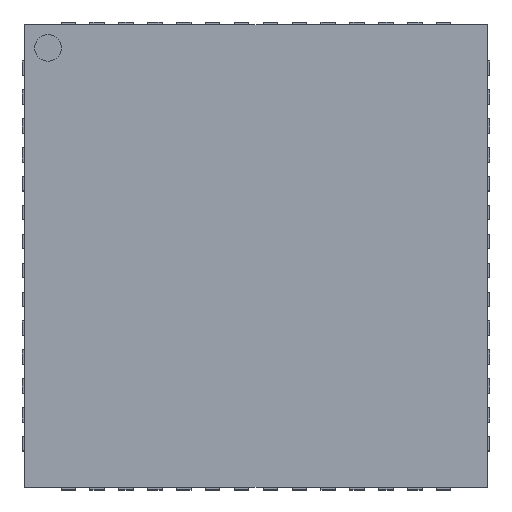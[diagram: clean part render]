
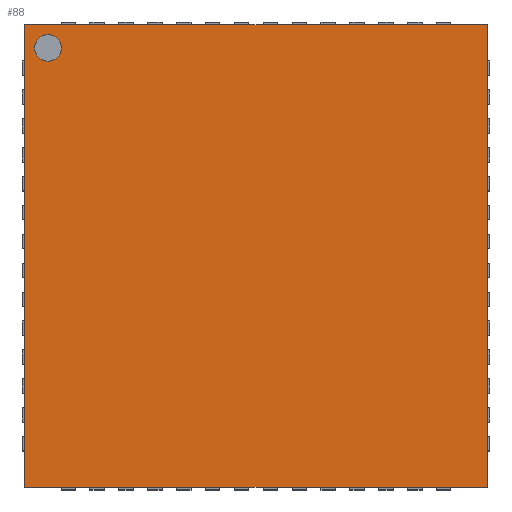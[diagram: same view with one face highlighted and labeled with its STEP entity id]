
A CAD part, top view. The second image highlights one B-rep face of the part: STEP entity #88.
In plain terms, the highlighted planar face has unit normal (0, 0, 1).
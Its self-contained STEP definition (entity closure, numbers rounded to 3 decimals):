
#24 = VERTEX_POINT('',#25);
#25 = CARTESIAN_POINT('',(-4.,-4.,1.05));
#40 = VERTEX_POINT('',#41);
#41 = CARTESIAN_POINT('',(-4.,4.,1.05));
#47 = EDGE_CURVE('',#24,#40,#48,.T.);
#48 = LINE('',#49,#50);
#49 = CARTESIAN_POINT('',(-4.,-4.,1.05));
#50 = VECTOR('',#51,1.);
#51 = DIRECTION('',(0.,1.,0.));
#70 = EDGE_CURVE('',#24,#71,#73,.T.);
#71 = VERTEX_POINT('',#72);
#72 = CARTESIAN_POINT('',(4.,-4.,1.05));
#73 = LINE('',#74,#75);
#74 = CARTESIAN_POINT('',(-4.,-4.,1.05));
#75 = VECTOR('',#76,1.);
#76 = DIRECTION('',(1.,0.,0.));
#88 = ADVANCED_FACE('',(#89,#107),#118,.T.);
#89 = FACE_BOUND('',#90,.T.);
#90 = EDGE_LOOP('',(#91,#92,#93,#101));
#91 = ORIENTED_EDGE('',*,*,#47,.F.);
#92 = ORIENTED_EDGE('',*,*,#70,.T.);
#93 = ORIENTED_EDGE('',*,*,#94,.T.);
#94 = EDGE_CURVE('',#71,#95,#97,.T.);
#95 = VERTEX_POINT('',#96);
#96 = CARTESIAN_POINT('',(4.,4.,1.05));
#97 = LINE('',#98,#99);
#98 = CARTESIAN_POINT('',(4.,-4.,1.05));
#99 = VECTOR('',#100,1.);
#100 = DIRECTION('',(0.,1.,0.));
#101 = ORIENTED_EDGE('',*,*,#102,.F.);
#102 = EDGE_CURVE('',#40,#95,#103,.T.);
#103 = LINE('',#104,#105);
#104 = CARTESIAN_POINT('',(-4.,4.,1.05));
#105 = VECTOR('',#106,1.);
#106 = DIRECTION('',(1.,0.,0.));
#107 = FACE_BOUND('',#108,.T.);
#108 = EDGE_LOOP('',(#109));
#109 = ORIENTED_EDGE('',*,*,#110,.F.);
#110 = EDGE_CURVE('',#111,#111,#113,.T.);
#111 = VERTEX_POINT('',#112);
#112 = CARTESIAN_POINT('',(-3.37,3.6,1.05));
#113 = CIRCLE('',#114,0.23);
#114 = AXIS2_PLACEMENT_3D('',#115,#116,#117);
#115 = CARTESIAN_POINT('',(-3.6,3.6,1.05));
#116 = DIRECTION('',(0.,0.,1.));
#117 = DIRECTION('',(1.,0.,0.));
#118 = PLANE('',#119);
#119 = AXIS2_PLACEMENT_3D('',#120,#121,#122);
#120 = CARTESIAN_POINT('',(-4.,-4.,1.05));
#121 = DIRECTION('',(0.,0.,1.));
#122 = DIRECTION('',(1.,0.,0.));
